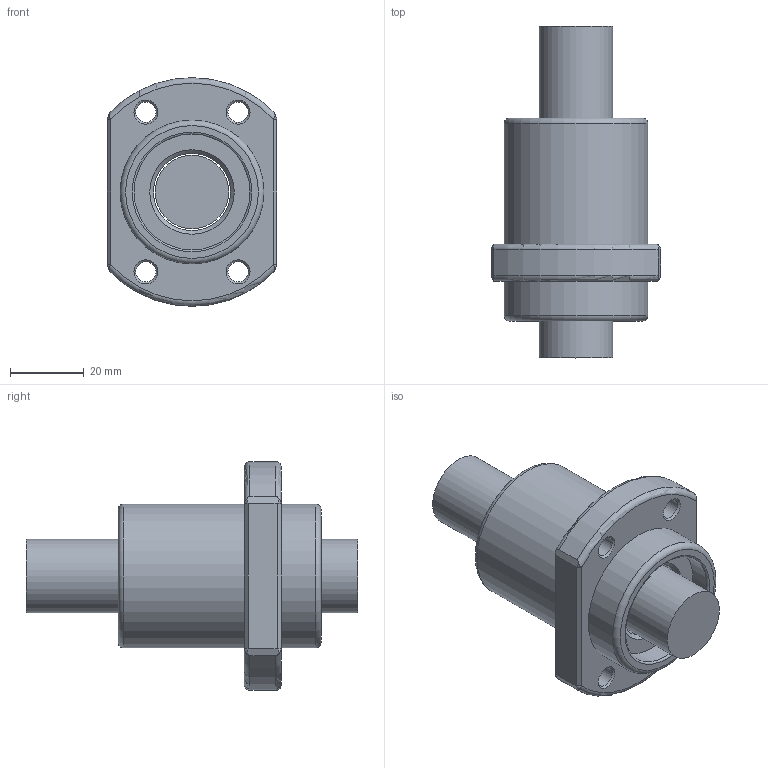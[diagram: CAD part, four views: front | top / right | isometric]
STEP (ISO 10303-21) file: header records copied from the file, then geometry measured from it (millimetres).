
FILE_DESCRIPTION(/* description */ (''),/* implementation_level */ '2;1');
FILE_NAME(/* name */ '2020.prt.step',/* time_stamp */ '2008-12-05T09:31:45+08:00',/* author */ (''),/* organization */ (''),/* preprocessor_version */ 'ST-DEVELOPER v11',/* originating_system */ 'SIEMENS UGS NX 6.0',/* authorisation */ '');
FILE_SCHEMA (('AUTOMOTIVE_DESIGN { 1 0 10303 214 1 1 1 1 }'));
Length unit declared in the file: millimetre
Products named in the file (1): 2020
Bounding box: 46 x 90 x 62 mm (x, y, z)
Volume: 82200.1 mm3; surface area: 22035.4 mm2
Topology: 2 solids, 2 shells, 56 faces, 130 edges, 82 vertices
Faces by surface type: plane 18, cylinder 12, cone 10, torus 8, bspline 8
Full cylindrical faces by diameter (mm): 5.5 x4, 19.95 x1, 20.9 x1, 31.4 x2, 39 x2
Entity records: 1738 total; most frequent: CARTESIAN_POINT 601, ORIENTED_EDGE 204, DIRECTION 202, EDGE_CURVE 102, EDGE_LOOP 94, AXIS2_PLACEMENT_3D 91, VERTEX_POINT 78, FACE_BOUND 68
